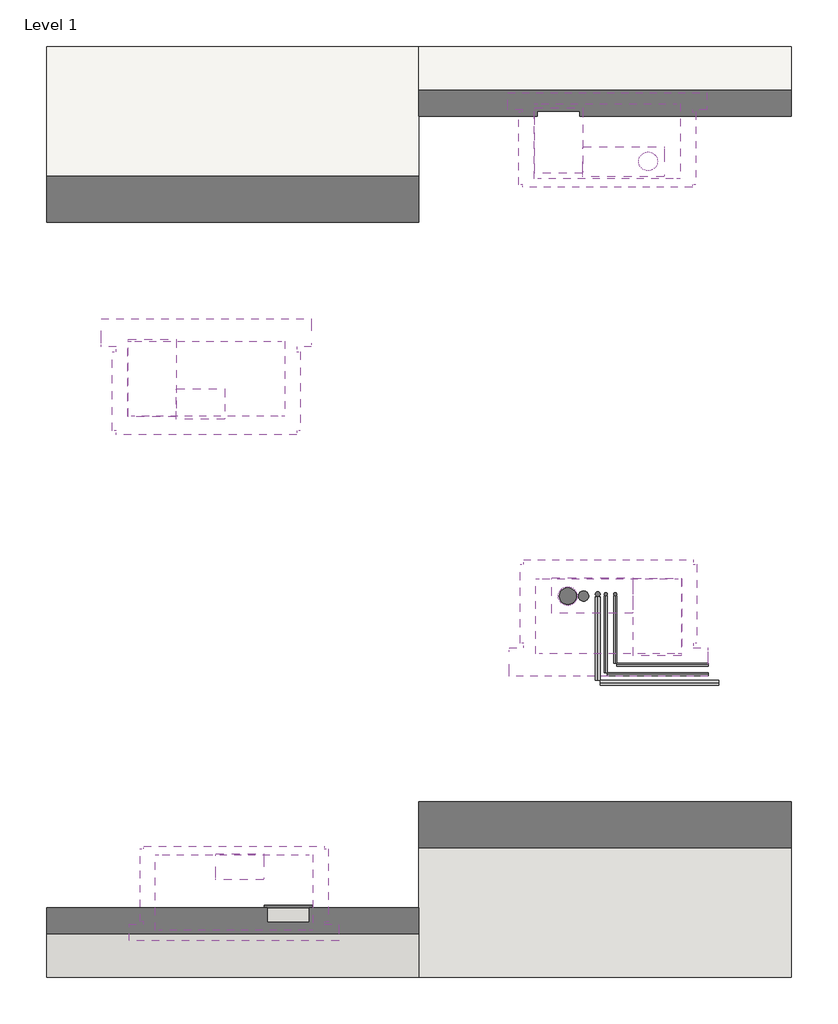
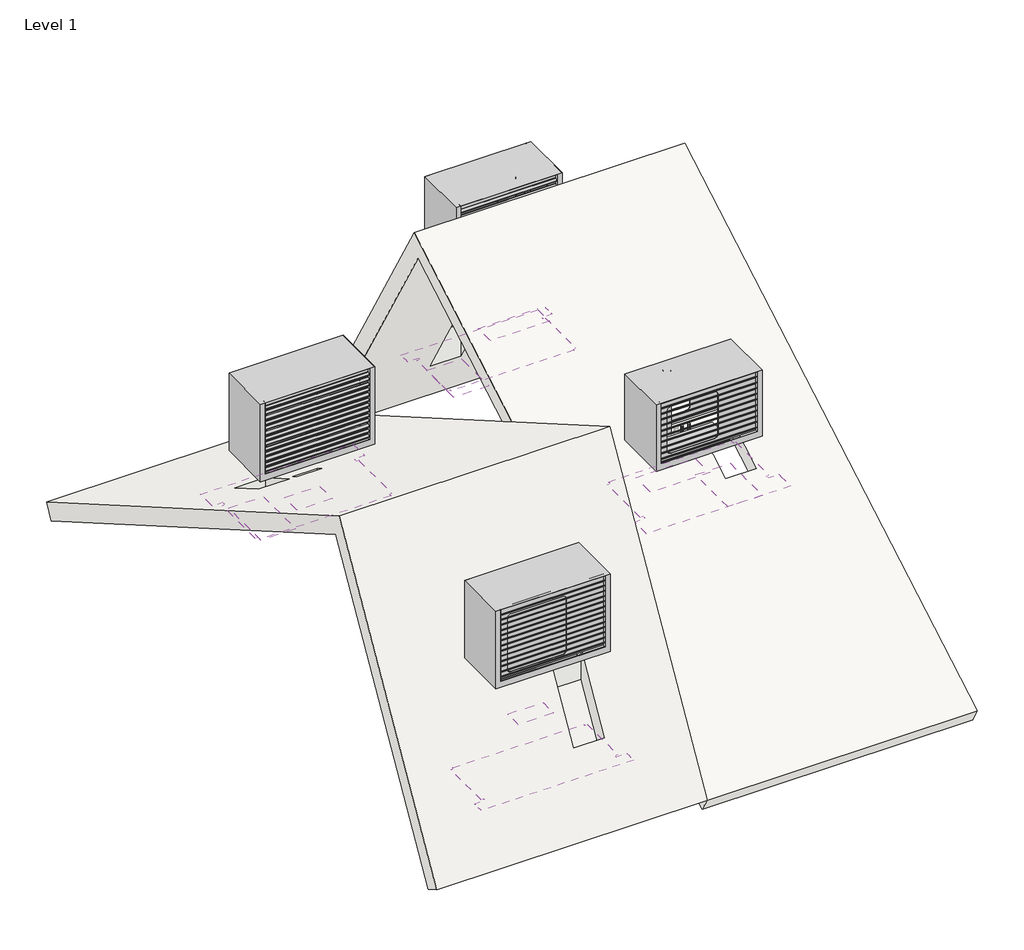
# One storey, incomplete: 12 coverings, 12 pipe segments, 4 unitary equipment elements, 2 roofs, 1 duct segment.
"""IFC4 building model written with IfcOpenShell, lengths in millimetres."""

from ifc_helpers import new_model, si_unit, point, frame, frame_2d, origin, place, context, project, spatial, circle_curve, trimmed, segment, composite_curve, outline, extrude, faceted_brep, transform, mapped, element, save
from components import covering_ebfa055f, covering_0022e7d6, covering_44cbcef2, covering_b66512e7, covering_b17e486a, covering_12e15cb3, covering_40b79405, covering_237e270b, inspection_panel_dda_93841c41, inspection_panel_dda_a83ceb8f, pipe_segment_adc9d0ba, delta_discovery_air_bdbf6794, delta_discovery_air_83ad3b17, delta_discovery_air_xl_f5126de7, delta_discovery_air_xl_14b97afa

model = new_model("IFC4")

# Units and contexts
model_context = context("Model", 3, world=origin())
ifc_project = project(units=[si_unit("LENGTHUNIT", "METRE", prefix="MILLI")], contexts=[model_context])

# Site, building, storey
site = spatial("IfcSite", under=ifc_project)
building = spatial("IfcBuilding", under=site)
storey = spatial("IfcBuildingStorey", under=building, Name="Level 1", Elevation=0.0)

# Coverings
placement = place(None, origin())
covering_shape = covering_ebfa055f(model_context)
element("IfcCovering", 1, ObjectType="M&G_5-_GM_WPB_Delta Discovery Air_roofboard-SH_BERSfr : roofboard DDA", at=placement, inside=storey, context=model_context, shape_type="MappedRepresentation", body=[
    mapped(covering_shape, transform((8173.9996074, -2235.3633269, 2475.4617163), x_axis=(0.0, 1.0, 0.0), y_axis=(-1.0, 0.0, 0.0), z_axis=(0.0, 0.0, 1.0))),
])
covering_2_shape = covering_0022e7d6(model_context)
element("IfcCovering", 2, ObjectType="M&G_5-_GM_WPB_Delta Discovery Air_roofboard-SH_BERSfr : roofboard DDA-XL", at=placement, inside=storey, context=model_context, shape_type="MappedRepresentation", body=[
    mapped(covering_2_shape, transform((4387.1169231, -5151.0925738, 1942.219356), x_axis=(0.0, 1.0, 0.0), y_axis=(-1.0, 0.0, 0.0), z_axis=(0.0, 0.0, 1.0))),
])
covering_3_shape = covering_44cbcef2(model_context)
element("IfcCovering", 3, ObjectType="M&G_5-_GM_WPB_Delta Discovery Air_roofboard-SH_BERSfr : roofboard DDA", at=placement, inside=storey, context=model_context, shape_type="MappedRepresentation", body=[
    mapped(covering_3_shape, transform((8510.5299691, 2441.3325879, 2027.822587), x_axis=(0.0, -1.0, 0.0), y_axis=(1.0, 0.0, 0.0), z_axis=(0.0, 0.0, 1.0))),
])
covering_4_shape = covering_b66512e7(model_context)
element("IfcCovering", 4, ObjectType="M&G_5-_GM_WPB_Delta Discovery Air_mountingbox-SH_BERSfr : mountingbox DDA", at=placement, inside=storey, context=model_context, shape_type="MappedRepresentation", body=[
    mapped(covering_4_shape, transform((8348.9996074, -2790.8188759, 2443.4405917), x_axis=(0.0, 1.0, 0.0), y_axis=(-1.0, 0.0, 0.0), z_axis=(0.0, 0.0, 1.0))),
])
covering_5_shape = covering_b17e486a(model_context)
element("IfcCovering", 5, ObjectType="M&G_5-_GM_WPB_Delta Discovery Air_mountingbox-SH_BERSfr : mountingbox DDA-XL", at=placement, inside=storey, context=model_context, shape_type="MappedRepresentation", body=[
    mapped(covering_5_shape, transform((4325.6169231, -5757.5859079, 1391.7305412), x_axis=(0.0, 1.0, 0.0), y_axis=(-1.0, 0.0, 0.0), z_axis=(0.0, 0.0, 1.0))),
])
covering_6_shape = covering_12e15cb3(model_context)
element("IfcCovering", 6, ObjectType="M&G_5-_GM_WPB_Delta Discovery Air_mountingbox-SH_BERSfr : mountingbox DDA", at=placement, inside=storey, context=model_context, shape_type="MappedRepresentation", body=[
    mapped(covering_6_shape, transform((8335.5299691, 2993.325922, 1571.7305412), x_axis=(0.0, -1.0, 0.0), y_axis=(1.0, 0.0, 0.0), z_axis=(0.0, 0.0, 1.0))),
])
covering_7_shape = covering_40b79405(model_context)
element("IfcCovering", 7, ObjectType="M&G_5-_GM_WPB_Delta Discovery Air_mountingbox-SH_BERSfr : mountingbox DDA-XL", at=placement, inside=storey, context=model_context, shape_type="MappedRepresentation", body=[
    mapped(covering_7_shape, transform((4028.9796779, 442.2510838, 2263.4405917), x_axis=(0.0, -1.0, 0.0), y_axis=(1.0, 0.0, 0.0), z_axis=(0.0, 0.0, 1.0))),
])
covering_8_shape = covering_237e270b(model_context)
element("IfcCovering", 8, ObjectType="M&G_5-_GM_WPB_Delta Discovery Air_roofboard-SH_BERSfr : roofboard DDA-XL", at=placement, inside=storey, context=model_context, shape_type="MappedRepresentation", body=[
    mapped(covering_8_shape, transform((3967.4796779, -166.4650275, 2326.2117163), x_axis=(0.0, -1.0, 0.0), y_axis=(1.0, 0.0, 0.0), z_axis=(0.0, 0.0, 1.0))),
])
inspection_panel_dda_shape = inspection_panel_dda_93841c41(model_context)
element("IfcCovering", 9, ObjectType="M&G_5-_GM_WPB_Delta Discovery Air_insp panel-SH_BERSfr : inspection panel DDA", at=placement, inside=storey, context=model_context, shape_type="MappedRepresentation", body=[
    mapped(inspection_panel_dda_shape, transform((8871.4996074, -2464.4270462, 2343.2117163), x_axis=(0.0, 1.0000000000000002, 0.0), y_axis=(-1.0000000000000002, 0.0, 0.0), z_axis=(0.0, 0.0, 1.0))),
])
element("IfcCovering", 10, ObjectType="M&G_5-_GM_WPB_Delta Discovery Air_insp panel-SH_BERSfr : inspection panel DDA", at=placement, inside=storey, context=model_context, shape_type="MappedRepresentation", body=[
    mapped(inspection_panel_dda_shape, transform((3446.4796779, 115.8592541, 2163.2117163), x_axis=(0.0, -1.0000000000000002, 0.0), y_axis=(1.0000000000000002, 0.0, 0.0), z_axis=(0.0, 0.0, 1.0))),
])
inspection_panel_dda_2_shape = inspection_panel_dda_a83ceb8f(model_context)
element("IfcCovering", 11, ObjectType="M&G_5-_GM_WPB_Delta Discovery Air_insp panel-SH_BERSfr : inspection panel DDA", at=placement, inside=storey, context=model_context, shape_type="MappedRepresentation", body=[
    mapped(inspection_panel_dda_2_shape, transform((4908.1169231, -5435.0925738, 1450.3169266), x_axis=(0.0, 1.0000000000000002, 0.0), y_axis=(-1.0000000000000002, 0.0, 0.0), z_axis=(0.0, 0.0, 1.0))),
])
element("IfcCovering", 12, ObjectType="M&G_5-_GM_WPB_Delta Discovery Air_insp panel-SH_BERSfr : inspection panel DDA", at=placement, inside=storey, context=model_context, shape_type="MappedRepresentation", body=[
    mapped(inspection_panel_dda_2_shape, transform((7813.0299691, 2670.8325879, 1630.3169266), x_axis=(0.0, -1.0000000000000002, 0.0), y_axis=(1.0000000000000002, 0.0, 0.0), z_axis=(0.0, 0.0, 1.0))),
])

# Duct segment
element("IfcDuctSegment", 13, ObjectType="Default", at=placement, inside=storey, context=model_context, shape_type="SweptSolid", body=[
    extrude(outline(composite_curve([segment(trimmed(circle_curve(frame_2d((7910.9996074, -2233.8255417)), 90.0), [point((7910.9996074, -2143.8255417))], [point((8000.9996074, -2233.8255417))], False, "CARTESIAN"), True, "CONTINUOUS"), segment(trimmed(circle_curve(frame_2d((7910.9996074, -2233.8255417)), 90.0), [point((8000.9996074, -2233.8255417))], [point((7910.9996074, -2323.8255417))], False, "CARTESIAN"), True, "CONTINUOUS"), segment(trimmed(circle_curve(frame_2d((7910.9996074, -2233.8255417)), 90.0), [point((7910.9996074, -2323.8255417))], [point((7820.9996074, -2233.8255417))], False, "CARTESIAN"), True, "CONTINUOUS"), segment(trimmed(circle_curve(frame_2d((7910.9996074, -2233.8255417)), 90.0), [point((7820.9996074, -2233.8255417))], [point((7910.9996074, -2143.8255417))], False, "CARTESIAN"), True, "CONTINUOUS")], self_intersect=False)), frame((0.0, 0.0, 444.2186654), z_axis=(0.0, 0.0, 1.0), x_axis=(1.0, 0.0, 0.0)), (0.0, 0.0, 1.0), 1620.0),
])

# Pipe segments
pipe_segment_shape = pipe_segment_adc9d0ba(model_context)
element("IfcPipeSegment", 14, ObjectType="M&G_5-_GM_WPB_Delta Discovery Air_pipe extension set-SH_BERSfr : pipe ext set L=1000mm", at=placement, inside=storey, context=model_context, shape_type="MappedRepresentation", body=[
    mapped(pipe_segment_shape, transform((7910.9996074, -2233.8255417, 3064.2186654), x_axis=(1.0, 0.0, 0.0), y_axis=(0.0, 1.0, 0.0), z_axis=(0.0, 0.0, 1.0))),
])
element("IfcPipeSegment", 15, ObjectType="M&G_5-_GM_WPB_Delta Discovery Air_pipe extension set-SH_BERSfr : pipe ext set L=1000mm", at=placement, inside=storey, context=model_context, shape_type="MappedRepresentation", body=[
    mapped(pipe_segment_shape, transform((8773.5299691, 2436.3325879, 3064.2186654), x_axis=(-1.0, 0.0, 0.0), y_axis=(0.0, -1.0, 0.0), z_axis=(0.0, 0.0, 1.0))),
])
element("IfcPipeSegment", 16, ObjectType="design HDPE", at=placement, inside=storey, context=model_context, shape_type="SweptSolid", body=[
    extrude(outline(composite_curve([segment(trimmed(circle_curve(frame_2d((0.0, 24.9999999)), 25.0), [point((25.0, 24.9999999))], [point((0.0, 0.0))], False, "CARTESIAN"), True, "CONTINUOUS"), segment(trimmed(circle_curve(frame_2d((0.0, 24.9999999)), 25.0), [point((0.0, 0.0))], [point((-25.0, 24.9999999))], False, "CARTESIAN"), True, "CONTINUOUS"), segment(trimmed(circle_curve(frame_2d((0.0, 24.9999999)), 25.0), [point((-25.0, 24.9999999))], [point((0.0, 50.0))], False, "CARTESIAN"), True, "CONTINUOUS"), segment(trimmed(circle_curve(frame_2d((0.0, 24.9999999)), 25.0), [point((0.0, 50.0))], [point((25.0, 24.9999999))], False, "CARTESIAN"), True, "CONTINUOUS")], self_intersect=False)), frame((8233.1495399, -3137.1042493, 79.9148917), z_axis=(0.0, 0.9998875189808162, 0.014998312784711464), x_axis=(1.0, 0.0, 0.0)), (0.0, 0.0, 1.0), 896.5077394),
])
element("IfcPipeSegment", 17, ObjectType="design HDPE", at=placement, inside=storey, context=model_context, shape_type="SweptSolid", body=[
    extrude(outline(composite_curve([segment(trimmed(circle_curve(frame_2d((0.0, 25.0)), 25.0), [point((0.0, 50.0))], [point((25.0, 25.0))], False, "CARTESIAN"), True, "CONTINUOUS"), segment(trimmed(circle_curve(frame_2d((0.0, 25.0)), 25.0), [point((25.0, 25.0))], [point((0.0, 0.0))], False, "CARTESIAN"), True, "CONTINUOUS"), segment(trimmed(circle_curve(frame_2d((0.0, 25.0)), 25.0), [point((0.0, 0.0))], [point((-25.0, 25.0))], False, "CARTESIAN"), True, "CONTINUOUS"), segment(trimmed(circle_curve(frame_2d((0.0, 25.0)), 25.0), [point((-25.0, 25.0))], [point((0.0, 50.0))], False, "CARTESIAN"), True, "CONTINUOUS")], self_intersect=False)), frame((9532.9996074, -3189.7261421, 35.0), z_axis=(-0.9998875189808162, 0.0, 0.014998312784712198), x_axis=(0.014998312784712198, 0.0, 0.9998875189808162)), (0.0, 0.0, 1.0), 1271.9962924),
])
element("IfcPipeSegment", 18, ObjectType="design HDPE", at=placement, inside=storey, context=model_context, shape_type="SweptSolid", body=[
    extrude(outline(composite_curve([segment(trimmed(circle_curve(frame_2d((8232.9996074, -2212.3255417)), 25.0), [point((8257.9996074, -2212.3255417))], [point((8232.9996074, -2237.3255417))], False, "CARTESIAN"), True, "CONTINUOUS"), segment(trimmed(circle_curve(frame_2d((8232.9996074, -2212.3255417)), 25.0), [point((8232.9996074, -2237.3255417))], [point((8207.9996074, -2212.3255417))], False, "CARTESIAN"), True, "CONTINUOUS"), segment(trimmed(circle_curve(frame_2d((8232.9996074, -2212.3255417)), 25.0), [point((8207.9996074, -2212.3255417))], [point((8232.9996074, -2187.3255417))], False, "CARTESIAN"), True, "CONTINUOUS"), segment(trimmed(circle_curve(frame_2d((8232.9996074, -2212.3255417)), 25.0), [point((8232.9996074, -2187.3255417))], [point((8257.9996074, -2212.3255417))], False, "CARTESIAN"), True, "CONTINUOUS")], self_intersect=False)), frame((0.0, 0.0, 96.78376), z_axis=(0.0, 0.0, 1.0), x_axis=(1.0, 0.0, 0.0)), (0.0, 0.0, 1.0), 1967.4349053),
])
element("IfcPipeSegment", 19, ObjectType="design HDPE", at=placement, inside=storey, context=model_context, shape_type="SweptSolid", body=[
    extrude(outline(composite_curve([segment(trimmed(circle_curve(frame_2d((8080.9996074, -2233.8255417)), 55.0), [point((8135.9996074, -2233.8255417))], [point((8080.9996074, -2288.8255417))], False, "CARTESIAN"), True, "CONTINUOUS"), segment(trimmed(circle_curve(frame_2d((8080.9996074, -2233.8255417)), 55.0), [point((8080.9996074, -2288.8255417))], [point((8025.9996074, -2233.8255417))], False, "CARTESIAN"), True, "CONTINUOUS"), segment(trimmed(circle_curve(frame_2d((8080.9996074, -2233.8255417)), 55.0), [point((8025.9996074, -2233.8255417))], [point((8080.9996074, -2178.8255417))], False, "CARTESIAN"), True, "CONTINUOUS"), segment(trimmed(circle_curve(frame_2d((8080.9996074, -2233.8255417)), 55.0), [point((8080.9996074, -2178.8255417))], [point((8135.9996074, -2233.8255417))], False, "CARTESIAN"), True, "CONTINUOUS")], self_intersect=False)), frame((0.0, 0.0, 369.6185638), z_axis=(0.0, 0.0, 1.0), x_axis=(1.0, 0.0, 0.0)), (0.0, 0.0, 1.0), 1694.6001016),
])
element("IfcPipeSegment", 20, ObjectType="design steel pipes", at=placement, inside=storey, context=model_context, shape_type="SweptSolid", body=[
    extrude(outline(composite_curve([segment(trimmed(circle_curve(frame_2d((8419.9996074, -2212.3255417)), 16.85), [point((8436.8496074, -2212.3255417))], [point((8419.9996074, -2229.1755417))], False, "CARTESIAN"), True, "CONTINUOUS"), segment(trimmed(circle_curve(frame_2d((8419.9996074, -2212.3255417)), 16.85), [point((8419.9996074, -2229.1755417))], [point((8403.1496074, -2212.3255417))], False, "CARTESIAN"), True, "CONTINUOUS"), segment(trimmed(circle_curve(frame_2d((8419.9996074, -2212.3255417)), 16.85), [point((8403.1496074, -2212.3255417))], [point((8419.9996074, -2195.4755417))], False, "CARTESIAN"), True, "CONTINUOUS"), segment(trimmed(circle_curve(frame_2d((8419.9996074, -2212.3255417)), 16.85), [point((8419.9996074, -2195.4755417))], [point((8436.8496074, -2212.3255417))], False, "CARTESIAN"), True, "CONTINUOUS")], self_intersect=False)), frame((0.0, 0.0, 42.5), z_axis=(0.0, 0.0, 1.0), x_axis=(1.0, 0.0, 0.0)), (0.0, 0.0, 1.0), 3013.9759803),
])
element("IfcPipeSegment", 21, ObjectType="design steel pipes", at=placement, inside=storey, context=model_context, shape_type="SweptSolid", body=[
    extrude(outline(composite_curve([segment(trimmed(circle_curve(frame_2d((25.0, 8419.9996074)), 16.85), [point((25.0, 8403.1496074))], [point((8.15, 8419.9996074))], False, "CARTESIAN"), True, "CONTINUOUS"), segment(trimmed(circle_curve(frame_2d((25.0, 8419.9996074)), 16.85), [point((8.15, 8419.9996074))], [point((25.0, 8436.8496074))], False, "CARTESIAN"), True, "CONTINUOUS"), segment(trimmed(circle_curve(frame_2d((25.0, 8419.9996074)), 16.85), [point((25.0, 8436.8496074))], [point((41.85, 8419.9996074))], False, "CARTESIAN"), True, "CONTINUOUS"), segment(trimmed(circle_curve(frame_2d((25.0, 8419.9996074)), 16.85), [point((41.85, 8419.9996074))], [point((25.0, 8403.1496074))], False, "CARTESIAN"), True, "CONTINUOUS")], self_intersect=False)), frame((0.0, -2954.6870391, 0.0), z_axis=(0.0, 1.0, 0.0), x_axis=(0.0, 0.0, 1.0)), (0.0, 0.0, 1.0), 724.8614974),
])
element("IfcPipeSegment", 22, ObjectType="design steel pipes", at=placement, inside=storey, context=model_context, shape_type="SweptSolid", body=[
    extrude(outline(composite_curve([segment(trimmed(circle_curve(frame_2d((0.0, 16.8499999)), 16.85), [point((-16.85, 16.8499999))], [point((0.0, 33.6999999))], False, "CARTESIAN"), True, "CONTINUOUS"), segment(trimmed(circle_curve(frame_2d((0.0, 16.8499999)), 16.85), [point((0.0, 33.6999999))], [point((16.85, 16.8499999))], False, "CARTESIAN"), True, "CONTINUOUS"), segment(trimmed(circle_curve(frame_2d((0.0, 16.8499999)), 16.85), [point((16.85, 16.8499999))], [point((0.0, 0.0))], False, "CARTESIAN"), True, "CONTINUOUS"), segment(trimmed(circle_curve(frame_2d((0.0, 16.8499999)), 16.85), [point((0.0, 0.0))], [point((-16.85, 16.8499999))], False, "CARTESIAN"), True, "CONTINUOUS")], self_intersect=False)), frame((8437.5000121, -2972.1870391, 8.1504204), z_axis=(0.9999999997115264, 0.0, 2.401972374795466e-05), x_axis=(0.0, 1.0, 0.0)), (0.0, 0.0, 1.0), 982.5464276),
])
element("IfcPipeSegment", 23, ObjectType="design steel pipes", at=placement, inside=storey, context=model_context, shape_type="SweptSolid", body=[
    extrude(outline(composite_curve([segment(trimmed(circle_curve(frame_2d((8319.9996074, -2212.3255417)), 16.85), [point((8303.1496074, -2212.3255417))], [point((8319.9996074, -2195.4755417))], False, "CARTESIAN"), True, "CONTINUOUS"), segment(trimmed(circle_curve(frame_2d((8319.9996074, -2212.3255417)), 16.85), [point((8319.9996074, -2195.4755417))], [point((8336.8496074, -2212.3255417))], False, "CARTESIAN"), True, "CONTINUOUS"), segment(trimmed(circle_curve(frame_2d((8319.9996074, -2212.3255417)), 16.85), [point((8336.8496074, -2212.3255417))], [point((8319.9996074, -2229.1755417))], False, "CARTESIAN"), True, "CONTINUOUS"), segment(trimmed(circle_curve(frame_2d((8319.9996074, -2212.3255417)), 16.85), [point((8319.9996074, -2229.1755417))], [point((8303.1496074, -2212.3255417))], False, "CARTESIAN"), True, "CONTINUOUS")], self_intersect=False)), frame((0.0, 0.0, 42.5), z_axis=(0.0, 0.0, 1.0), x_axis=(1.0, 0.0, 0.0)), (0.0, 0.0, 1.0), 3013.9759803),
])
element("IfcPipeSegment", 24, ObjectType="design steel pipes", at=placement, inside=storey, context=model_context, shape_type="SweptSolid", body=[
    extrude(outline(composite_curve([segment(trimmed(circle_curve(frame_2d((25.0, 8319.9996074)), 16.85), [point((25.0, 8303.1496074))], [point((8.15, 8319.9996074))], False, "CARTESIAN"), True, "CONTINUOUS"), segment(trimmed(circle_curve(frame_2d((25.0, 8319.9996074)), 16.85), [point((8.15, 8319.9996074))], [point((25.0, 8336.8496074))], False, "CARTESIAN"), True, "CONTINUOUS"), segment(trimmed(circle_curve(frame_2d((25.0, 8319.9996074)), 16.85), [point((25.0, 8336.8496074))], [point((41.85, 8319.9996074))], False, "CARTESIAN"), True, "CONTINUOUS"), segment(trimmed(circle_curve(frame_2d((25.0, 8319.9996074)), 16.85), [point((41.85, 8319.9996074))], [point((25.0, 8303.1496074))], False, "CARTESIAN"), True, "CONTINUOUS")], self_intersect=False)), frame((0.0, -3054.6870391, 0.0), z_axis=(0.0, 1.0, 0.0), x_axis=(0.0, 0.0, 1.0)), (0.0, 0.0, 1.0), 824.8614974),
])
element("IfcPipeSegment", 25, ObjectType="design steel pipes", at=placement, inside=storey, context=model_context, shape_type="SweptSolid", body=[
    extrude(outline(composite_curve([segment(trimmed(circle_curve(frame_2d((0.0, 16.8499999)), 16.85), [point((-16.85, 16.8499999))], [point((0.0, 33.6999999))], False, "CARTESIAN"), True, "CONTINUOUS"), segment(trimmed(circle_curve(frame_2d((0.0, 16.8499999)), 16.85), [point((0.0, 33.6999999))], [point((16.85, 16.8499999))], False, "CARTESIAN"), True, "CONTINUOUS"), segment(trimmed(circle_curve(frame_2d((0.0, 16.8499999)), 16.85), [point((16.85, 16.8499999))], [point((0.0, 0.0))], False, "CARTESIAN"), True, "CONTINUOUS"), segment(trimmed(circle_curve(frame_2d((0.0, 16.8499999)), 16.85), [point((0.0, 0.0))], [point((-16.85, 16.8499999))], False, "CARTESIAN"), True, "CONTINUOUS")], self_intersect=False)), frame((8337.5000121, -3072.1870391, 8.1504204), z_axis=(0.9999999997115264, 0.0, 2.401972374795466e-05), x_axis=(0.0, 1.0, 0.0)), (0.0, 0.0, 1.0), 1082.5464275),
])

# Roofs
element("IfcRoof", 26, ObjectType="Roof 1", at=placement, inside=storey, context=model_context, shape_type="Brep", body=[
    faceted_brep([(2311.6571684, -6330.1684687, 400.0), (2311.6571684, -3830.1684687, 4730.1270189), (2311.6571684, 3669.8315313, 400.0), (2311.6571684, 3544.8315313, 183.4936491), (2311.6571684, -3738.6621178, 4388.620668), (2311.6571684, -6113.6621178, 275.0), (6311.6571684, -3830.1684687, 4730.1270189), (6311.6571684, -6330.1684687, 400.0), (6311.6571684, -6113.6621178, 275.0), (6311.6571684, -3738.6621178, 4388.620668), (6311.6571684, 3544.8315313, 183.4936491), (6311.6571684, 3669.8315313, 400.0), (5135.6169231, -5132.5925738, 2474.2622959), (5135.6169231, -5737.5925738, 1426.3715573), (4680.6169231, -5737.5925738, 1426.3715573), (4680.6169231, -5132.5925738, 2474.2622959), (4582.6169231, -5091.0925738, 2546.1424044), (4582.6169231, -5211.0925738, 2338.2963075), (4219.6169231, -5211.0925738, 2338.2963075), (4219.6169231, -5091.0925738, 2546.1424044), (3218.9796779, -186.8166245, 2626.6368509), (3218.9796779, 418.5351327, 2277.1368509), (3673.9796779, 418.5351327, 2277.1368509), (3673.9796779, -186.8166245, 2626.6368509), (3771.9796779, -226.6537931, 2649.6368509), (3771.9796779, -106.276262, 2580.1368509), (4134.9796779, -106.276262, 2580.1368509), (4134.9796779, -226.6537931, 2649.6368509), (3218.9796779, 418.5351327, 1988.4617163), (3218.9796779, -186.8166245, 2337.9617163), (3673.9796779, -186.8166245, 2337.9617163), (3673.9796779, 418.5351327, 1988.4617163), (3771.9796779, -106.276262, 2291.4617163), (3771.9796779, -226.6537931, 2360.9617163), (4134.9796779, -226.6537931, 2360.9617163), (4134.9796779, -106.276262, 2291.4617163), (5135.6169231, -5737.5925738, 926.3715573), (5135.6169231, -5132.5925738, 1974.2622959), (4680.6169231, -5132.5925738, 1974.2622959), (4680.6169231, -5737.5925738, 926.3715573), (4582.6169231, -5211.0925738, 1838.2963075), (4582.6169231, -5091.0925738, 2046.1424044), (4219.6169231, -5091.0925738, 2046.1424044), (4219.6169231, -5211.0925738, 1838.2963075)], [[[0, 1, 2, 3, 4, 5]], [[6, 7, 8, 9, 10, 11]], [[1, 0, 7, 6], [12, 13, 14, 15], [16, 17, 18, 19]], [[2, 1, 6, 11], [20, 21, 22, 23], [24, 25, 26, 27]], [[9, 4, 3, 10], [28, 29, 30, 31], [32, 33, 34, 35]], [[4, 9, 8, 5], [36, 37, 38, 39], [40, 41, 42, 43]], [[3, 2, 11, 10]], [[0, 5, 8, 7]], [[36, 13, 12, 37]], [[38, 15, 14, 39]], [[37, 12, 15, 38]], [[13, 36, 39, 14]], [[40, 17, 16, 41]], [[42, 19, 18, 43]], [[41, 16, 19, 42]], [[17, 40, 43, 18]], [[28, 21, 20, 29]], [[30, 23, 22, 31]], [[29, 20, 23, 30]], [[21, 28, 31, 22]], [[32, 25, 24, 33]], [[34, 27, 26, 35]], [[33, 24, 27, 34]], [[25, 32, 35, 26]]]),
])
element("IfcRoof", 27, ObjectType="Roof 1", at=placement, inside=storey, context=model_context, shape_type="Brep", body=[
    faceted_brep([(10311.6571684, 3669.8315313, 400.0), (10311.6571684, 1169.8315313, 4730.1270189), (10311.6571684, -6330.1684687, 400.0), (10311.6571684, -6205.1684687, 183.4936491), (10311.6571684, 1078.3251803, 4388.620668), (10311.6571684, 3453.3251803, 275.0), (6311.6571684, 1169.8315313, 4730.1270189), (6311.6571684, 3669.8315313, 400.0), (6311.6571684, 3453.3251803, 275.0), (6311.6571684, 1078.3251803, 4388.620668), (6311.6571684, -6205.1684687, 183.4936491), (6311.6571684, -6330.1684687, 400.0), (7585.5299691, 2368.3325879, 2654.2622959), (7585.5299691, 2973.3325879, 1606.3715573), (8040.5299691, 2973.3325879, 1606.3715573), (8040.5299691, 2368.3325879, 2654.2622959), (8142.5299691, 2331.3325879, 2718.3481758), (8142.5299691, 2551.3325879, 2337.2969981), (8884.5299691, 2551.3325879, 2337.2969981), (8884.5299691, 2331.3325879, 2718.3481758), (9098.9996074, -2161.7511676, 2806.6368509), (9098.9996074, -2767.1029248, 2457.1368509), (8643.9996074, -2767.1029248, 2457.1368509), (8643.9996074, -2161.7511676, 2806.6368509), (8541.9996074, -2125.3781006, 2827.6368509), (8541.9996074, -2345.3485532, 2700.6368509), (7799.9996074, -2345.3485532, 2700.6368509), (7799.9996074, -2125.3781006, 2827.6368509), (9098.9996074, -2767.1029248, 2168.4617163), (9098.9996074, -2161.7511676, 2517.9617163), (8643.9996074, -2161.7511676, 2517.9617163), (8643.9996074, -2767.1029248, 2168.4617163), (8541.9996074, -2345.3485532, 2411.9617163), (8541.9996074, -2125.3781006, 2538.9617163), (7799.9996074, -2125.3781006, 2538.9617163), (7799.9996074, -2345.3485532, 2411.9617163), (7585.5299691, 2973.3325879, 1106.3715573), (7585.5299691, 2368.3325879, 2154.2622959), (8040.5299691, 2368.3325879, 2154.2622959), (8040.5299691, 2973.3325879, 1106.3715573), (8142.5299691, 2551.3325879, 1837.2969981), (8142.5299691, 2331.3325879, 2218.3481758), (8884.5299691, 2331.3325879, 2218.3481758), (8884.5299691, 2551.3325879, 1837.2969981)], [[[0, 1, 2, 3, 4, 5]], [[6, 7, 8, 9, 10, 11]], [[1, 0, 7, 6], [12, 13, 14, 15], [16, 17, 18, 19]], [[2, 1, 6, 11], [20, 21, 22, 23], [24, 25, 26, 27]], [[9, 4, 3, 10], [28, 29, 30, 31], [32, 33, 34, 35]], [[4, 9, 8, 5], [36, 37, 38, 39], [40, 41, 42, 43]], [[3, 2, 11, 10]], [[0, 5, 8, 7]], [[28, 21, 20, 29]], [[30, 23, 22, 31]], [[29, 20, 23, 30]], [[21, 28, 31, 22]], [[32, 25, 24, 33]], [[34, 27, 26, 35]], [[33, 24, 27, 34]], [[25, 32, 35, 26]], [[36, 13, 12, 37]], [[38, 15, 14, 39]], [[37, 12, 15, 38]], [[13, 36, 39, 14]], [[40, 17, 16, 41]], [[42, 19, 18, 43]], [[41, 16, 19, 42]], [[17, 40, 43, 18]]]),
])

# Unitary equipment
delta_discovery_air_shape = delta_discovery_air_bdbf6794(model_context)
element("IfcUnitaryEquipment", 28, ObjectType="M&G_5-_GM_WPB_Delta Discovery Air_BERSfr : Delta Discovery Air", at=placement, inside=storey, context=model_context, shape_type="MappedRepresentation", body=[
    mapped(delta_discovery_air_shape, transform((8348.9996074, -2048.3255417, 2872.1231665), x_axis=(1.0, 0.0, 0.0), y_axis=(0.0, 1.0, 0.0), z_axis=(0.0, 0.0, 1.0))),
])
delta_discovery_air_2_shape = delta_discovery_air_83ad3b17(model_context)
element("IfcUnitaryEquipment", 29, ObjectType="M&G_5-_GM_WPB_Delta Discovery Air_BERSfr : Delta Discovery Air", at=placement, inside=storey, context=model_context, shape_type="MappedRepresentation", body=[
    mapped(delta_discovery_air_2_shape, transform((8335.5299691, 2250.8325879, 2857.7782658), x_axis=(-1.0, 0.0, 0.0), y_axis=(0.0, -1.0, 0.0), z_axis=(0.0, 0.0, 1.0))),
])
delta_discovery_air_xl_shape = delta_discovery_air_xl_f5126de7(model_context)
element("IfcUnitaryEquipment", 30, ObjectType="M&G_5-_GM_WPB_Delta Discovery Air_BERSfr : Delta Discovery Air-XL", at=placement, inside=storey, context=model_context, shape_type="MappedRepresentation", body=[
    mapped(delta_discovery_air_xl_shape, transform((4325.6169231, -5015.0925738, 2677.7782658), x_axis=(1.0, 0.0, 0.0), y_axis=(0.0, 1.0, 0.0), z_axis=(0.0, 0.0, 1.0))),
])
delta_discovery_air_xl_2_shape = delta_discovery_air_xl_14b97afa(model_context)
element("IfcUnitaryEquipment", 31, ObjectType="M&G_5-_GM_WPB_Delta Discovery Air_BERSfr : Delta Discovery Air-XL", at=placement, inside=storey, context=model_context, shape_type="MappedRepresentation", body=[
    mapped(delta_discovery_air_xl_2_shape, transform((4028.9796779, -300.2422504, 2692.1231665), x_axis=(-1.0, 0.0, 0.0), y_axis=(0.0, -1.0, 0.0), z_axis=(0.0, 0.0, 1.0))),
])

save(model, "model.ifc")
